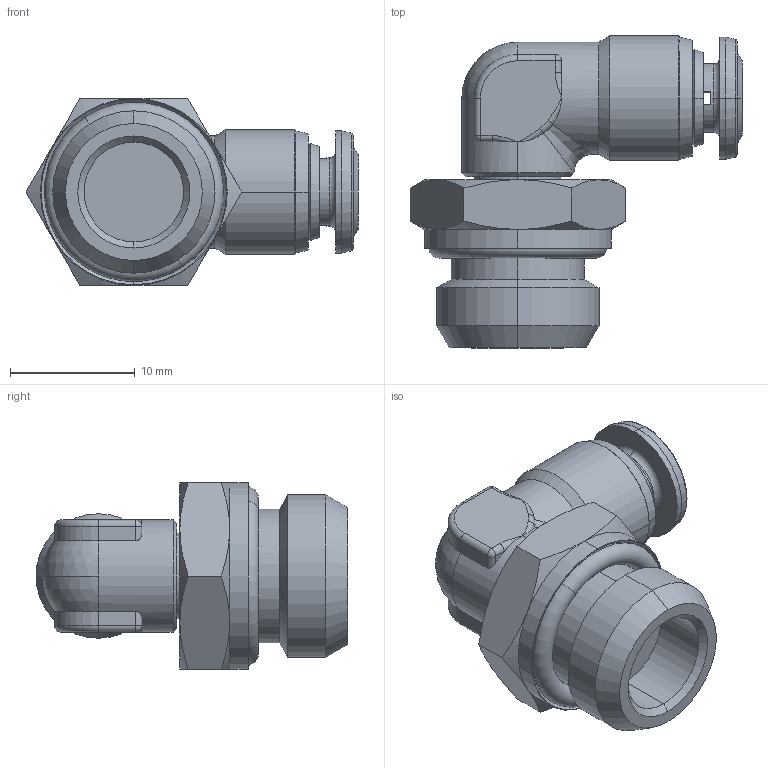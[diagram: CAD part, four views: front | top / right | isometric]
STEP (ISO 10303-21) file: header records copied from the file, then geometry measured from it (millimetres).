
FILE_DESCRIPTION (( 'STEP AP214' ), '1' );
FILE_NAME ('6011500002.step', '2012-10-16T16:32:56', ( '' ), ( '' ), 'SwSTEP 2.0', 'SolidWorks 2012', '' );
FILE_SCHEMA (( 'AUTOMOTIVE_DESIGN' ));
Length unit declared in the file: millimetre
Products named in the file (1): 6011500002
Bounding box: 26.66 x 25.05 x 15 mm (x, y, z)
Volume: 3277.2 mm3; surface area: 2211.2 mm2
Topology: 1 solids, 1 shells, 155 faces, 356 edges, 200 vertices
Faces by surface type: cylinder 43, cone 40, plane 35, torus 22, bspline 9, sphere 6
Entity records: 6410 total; most frequent: CARTESIAN_POINT 1243, DIRECTION 774, ORIENTED_EDGE 688, EDGE_CURVE 344, AXIS2_PLACEMENT_3D 333, VERTEX_POINT 200, CIRCLE 186, EDGE_LOOP 168
